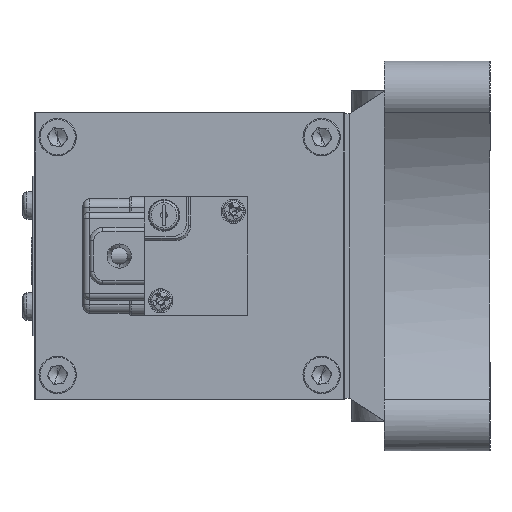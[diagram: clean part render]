
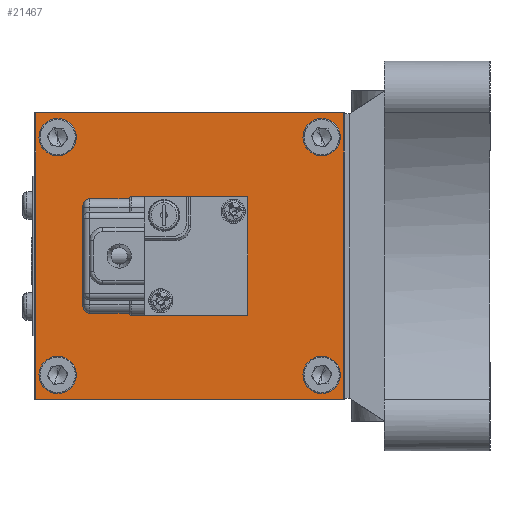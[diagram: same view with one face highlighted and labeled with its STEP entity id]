
A CAD part, left-side view. The second image highlights one B-rep face of the part: STEP entity #21467.
In plain terms, the highlighted planar face has unit normal (-1, 0, 0) as drawn and (0, 0, -1) by its records, which use the part's own axes.
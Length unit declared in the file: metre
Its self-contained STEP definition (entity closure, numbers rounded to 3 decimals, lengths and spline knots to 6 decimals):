
#34 = VECTOR ( 'NONE', #3998, 1. ) ;
#132 = DIRECTION ( 'NONE',  ( 0., 0., 1. ) ) ;
#446 = CARTESIAN_POINT ( 'NONE',  ( -0.027, 0.00625, 0. ) ) ;
#609 = CARTESIAN_POINT ( 'NONE',  ( 0., 0.07125, 0. ) ) ;
#637 = EDGE_CURVE ( 'NONE', #11936, #18808, #17964, .T. ) ;
#648 = VERTEX_POINT ( 'NONE', #19104 ) ;
#724 = CARTESIAN_POINT ( 'NONE',  ( 0.027, 0.00625, 0. ) ) ;
#778 = EDGE_CURVE ( 'NONE', #3961, #16332, #20845, .T. ) ;
#805 = ORIENTED_EDGE ( 'NONE', *, *, #1171, .F. ) ;
#919 = CIRCLE ( 'NONE', #2959, 0.0025 ) ;
#1127 = CARTESIAN_POINT ( 'NONE',  ( -0.0245, 0.00625, 0. ) ) ;
#1154 = CARTESIAN_POINT ( 'NONE',  ( -0.0325, 0.03625, 0. ) ) ;
#1171 = EDGE_CURVE ( 'NONE', #7642, #5441, #15054, .T. ) ;
#1234 = AXIS2_PLACEMENT_3D ( 'NONE', #724, #12366, #2422 ) ;
#1248 = DIRECTION ( 'NONE',  ( 0., -1., 0. ) ) ;
#1449 = VERTEX_POINT ( 'NONE', #12700 ) ;
#1783 = ORIENTED_EDGE ( 'NONE', *, *, #13291, .F. ) ;
#1980 = FACE_BOUND ( 'NONE', #6540, .T. ) ;
#2141 = DIRECTION ( 'NONE',  ( 1., 0., 0. ) ) ;
#2229 = VERTEX_POINT ( 'NONE', #14465 ) ;
#2422 = DIRECTION ( 'NONE',  ( 1., 0., 0. ) ) ;
#2527 = FACE_BOUND ( 'NONE', #14136, .T. ) ;
#2679 = AXIS2_PLACEMENT_3D ( 'NONE', #13801, #3849, #15464 ) ;
#2959 = AXIS2_PLACEMENT_3D ( 'NONE', #2960, #14573, #4640 ) ;
#2960 = CARTESIAN_POINT ( 'NONE',  ( 0.027, 0.06625, 0. ) ) ;
#3689 = AXIS2_PLACEMENT_3D ( 'NONE', #14140, #4217, #15818 ) ;
#3849 = DIRECTION ( 'NONE',  ( 0., 0., -1. ) ) ;
#3961 = VERTEX_POINT ( 'NONE', #18063 ) ;
#3998 = DIRECTION ( 'NONE',  ( -1., 0., 0. ) ) ;
#4021 = CARTESIAN_POINT ( 'NONE',  ( 0.0325, 0.07125, 0. ) ) ;
#4217 = DIRECTION ( 'NONE',  ( 0., 0., -1. ) ) ;
#4235 = AXIS2_PLACEMENT_3D ( 'NONE', #446, #12087, #2141 ) ;
#4557 = ORIENTED_EDGE ( 'NONE', *, *, #10473, .F. ) ;
#4640 = DIRECTION ( 'NONE',  ( 1., 0., 0. ) ) ;
#4781 = DIRECTION ( 'NONE',  ( 0., 1., 0. ) ) ;
#5111 = CARTESIAN_POINT ( 'NONE',  ( -0.0325, 0.00125, 0. ) ) ;
#5441 = VERTEX_POINT ( 'NONE', #9627 ) ;
#5685 = CIRCLE ( 'NONE', #19627, 0.0025 ) ;
#5738 = CARTESIAN_POINT ( 'NONE',  ( -0.0245, 0.06625, 0. ) ) ;
#5900 = EDGE_CURVE ( 'NONE', #648, #11936, #16374, .T. ) ;
#6144 = DIRECTION ( 'NONE',  ( 0., 0., -1. ) ) ;
#6146 = VERTEX_POINT ( 'NONE', #4021 ) ;
#6339 = VERTEX_POINT ( 'NONE', #14451 ) ;
#6452 = FACE_BOUND ( 'NONE', #17985, .T. ) ;
#6540 = EDGE_LOOP ( 'NONE', ( #11124, #4557 ) ) ;
#6845 = ORIENTED_EDGE ( 'NONE', *, *, #20095, .F. ) ;
#7457 = CARTESIAN_POINT ( 'NONE',  ( 0., 0.00125, 0. ) ) ;
#7515 = EDGE_LOOP ( 'NONE', ( #15383, #15744 ) ) ;
#7532 = CIRCLE ( 'NONE', #3689, 0.0025 ) ;
#7552 = VECTOR ( 'NONE', #1248, 1. ) ;
#7642 = VERTEX_POINT ( 'NONE', #5738 ) ;
#8406 = CARTESIAN_POINT ( 'NONE',  ( 0.0325, 0.00125, 0. ) ) ;
#8441 = CARTESIAN_POINT ( 'NONE',  ( -0.0325, 0.00125, 0. ) ) ;
#8820 = DIRECTION ( 'NONE',  ( 0., 0., -1. ) ) ;
#9256 = CARTESIAN_POINT ( 'NONE',  ( 0.027, 0.06625, 0. ) ) ;
#9627 = CARTESIAN_POINT ( 'NONE',  ( -0.0295, 0.06625, 0. ) ) ;
#9796 = ORIENTED_EDGE ( 'NONE', *, *, #9927, .F. ) ;
#9927 = EDGE_CURVE ( 'NONE', #6339, #2229, #919, .T. ) ;
#10473 = EDGE_CURVE ( 'NONE', #17723, #1449, #11337, .T. ) ;
#10633 = ORIENTED_EDGE ( 'NONE', *, *, #637, .F. ) ;
#10751 = VECTOR ( 'NONE', #4781, 1. ) ;
#10936 = DIRECTION ( 'NONE',  ( 1., 0., 0. ) ) ;
#11124 = ORIENTED_EDGE ( 'NONE', *, *, #17971, .F. ) ;
#11306 = AXIS2_PLACEMENT_3D ( 'NONE', #16068, #6144, #17758 ) ;
#11337 = CIRCLE ( 'NONE', #1234, 0.0025 ) ;
#11647 = CARTESIAN_POINT ( 'NONE',  ( 0.0245, 0.00625, 0. ) ) ;
#11774 = DIRECTION ( 'NONE',  ( 1., 0., 0. ) ) ;
#11936 = VERTEX_POINT ( 'NONE', #5111 ) ;
#12087 = DIRECTION ( 'NONE',  ( 0., 0., -1. ) ) ;
#12366 = DIRECTION ( 'NONE',  ( 0., 0., -1. ) ) ;
#12700 = CARTESIAN_POINT ( 'NONE',  ( 0.0295, 0.00625, 0. ) ) ;
#12702 = ORIENTED_EDGE ( 'NONE', *, *, #5900, .F. ) ;
#13027 = ORIENTED_EDGE ( 'NONE', *, *, #14351, .F. ) ;
#13092 = EDGE_CURVE ( 'NONE', #16332, #3961, #17268, .T. ) ;
#13291 = EDGE_CURVE ( 'NONE', #18808, #6146, #15158, .T. ) ;
#13519 = VECTOR ( 'NONE', #17389, 1. ) ;
#13801 = CARTESIAN_POINT ( 'NONE',  ( -0.027, 0.06625, 0. ) ) ;
#14136 = EDGE_LOOP ( 'NONE', ( #805, #6845 ) ) ;
#14140 = CARTESIAN_POINT ( 'NONE',  ( -0.027, 0.06625, 0. ) ) ;
#14351 = EDGE_CURVE ( 'NONE', #6146, #648, #17234, .T. ) ;
#14451 = CARTESIAN_POINT ( 'NONE',  ( 0.0295, 0.06625, 0. ) ) ;
#14465 = CARTESIAN_POINT ( 'NONE',  ( 0.0245, 0.06625, 0. ) ) ;
#14573 = DIRECTION ( 'NONE',  ( 0., 0., -1. ) ) ;
#14702 = CARTESIAN_POINT ( 'NONE',  ( 0.0325, 0.03625, 0. ) ) ;
#15054 = CIRCLE ( 'NONE', #2679, 0.0025 ) ;
#15158 = LINE ( 'NONE', #14702, #10751 ) ;
#15244 = FACE_BOUND ( 'NONE', #7515, .T. ) ;
#15383 = ORIENTED_EDGE ( 'NONE', *, *, #13092, .F. ) ;
#15464 = DIRECTION ( 'NONE',  ( 1., 0., 0. ) ) ;
#15744 = ORIENTED_EDGE ( 'NONE', *, *, #778, .F. ) ;
#15818 = DIRECTION ( 'NONE',  ( 1., 0., 0. ) ) ;
#16068 = CARTESIAN_POINT ( 'NONE',  ( -0.027, 0.00625, 0. ) ) ;
#16174 = ORIENTED_EDGE ( 'NONE', *, *, #17551, .F. ) ;
#16332 = VERTEX_POINT ( 'NONE', #1127 ) ;
#16374 = LINE ( 'NONE', #1154, #7552 ) ;
#16658 = AXIS2_PLACEMENT_3D ( 'NONE', #9256, #20941, #10936 ) ;
#17234 = LINE ( 'NONE', #609, #34 ) ;
#17268 = CIRCLE ( 'NONE', #4235, 0.0025 ) ;
#17389 = DIRECTION ( 'NONE',  ( 1., 0., 0. ) ) ;
#17551 = EDGE_CURVE ( 'NONE', #2229, #6339, #18702, .T. ) ;
#17624 = AXIS2_PLACEMENT_3D ( 'NONE', #8441, #132, #11774 ) ;
#17723 = VERTEX_POINT ( 'NONE', #11647 ) ;
#17758 = DIRECTION ( 'NONE',  ( 1., 0., 0. ) ) ;
#17964 = LINE ( 'NONE', #7457, #13519 ) ;
#17971 = EDGE_CURVE ( 'NONE', #1449, #17723, #5685, .T. ) ;
#17985 = EDGE_LOOP ( 'NONE', ( #9796, #16174 ) ) ;
#18063 = CARTESIAN_POINT ( 'NONE',  ( -0.0295, 0.00625, 0. ) ) ;
#18406 = PLANE ( 'NONE',  #17624 ) ;
#18702 = CIRCLE ( 'NONE', #16658, 0.0025 ) ;
#18808 = VERTEX_POINT ( 'NONE', #8406 ) ;
#18813 = CARTESIAN_POINT ( 'NONE',  ( 0.027, 0.00625, 0. ) ) ;
#19104 = CARTESIAN_POINT ( 'NONE',  ( -0.0325, 0.07125, 0. ) ) ;
#19201 = FACE_OUTER_BOUND ( 'NONE', #20038, .T. ) ;
#19627 = AXIS2_PLACEMENT_3D ( 'NONE', #18813, #8820, #20476 ) ;
#20038 = EDGE_LOOP ( 'NONE', ( #12702, #13027, #1783, #10633 ) ) ;
#20095 = EDGE_CURVE ( 'NONE', #5441, #7642, #7532, .T. ) ;
#20476 = DIRECTION ( 'NONE',  ( 1., 0., 0. ) ) ;
#20845 = CIRCLE ( 'NONE', #11306, 0.0025 ) ;
#20941 = DIRECTION ( 'NONE',  ( 0., 0., -1. ) ) ;
#21467 = ADVANCED_FACE ( 'NONE', ( #2527, #6452, #15244, #1980, #19201 ), #18406, .F. ) ;
